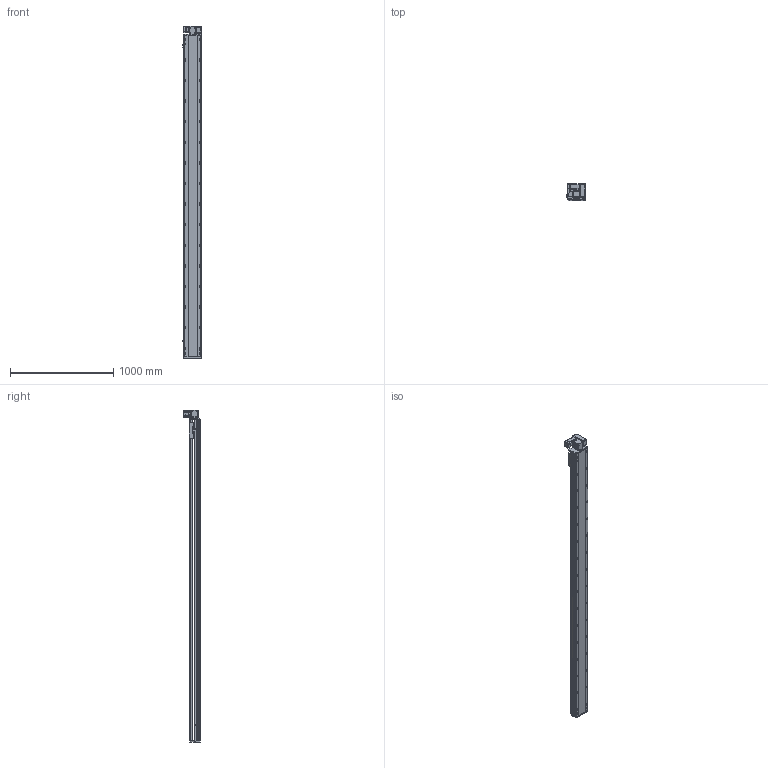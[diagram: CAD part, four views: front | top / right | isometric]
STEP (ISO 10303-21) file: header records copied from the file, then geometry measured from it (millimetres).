
FILE_DESCRIPTION (( 'STEP AP214' ), '1' );
FILE_NAME ('RTB17S-XX-2850-RW-M40-C4.STEP', '2025-12-11T09:16:06', ( '' ), ( '' ), 'SwSTEP 2.0', 'SolidWorks 2018', '' );
FILE_SCHEMA (( 'AUTOMOTIVE_DESIGN' ));
Length unit declared in the file: millimetre
Products named in the file (14): RTB14-L-018P^RTB17S-RW-々湍釱蚾饜-400W_RTB17S-XX-XX-RW-M40-C4; RTB17S-RW-々湍釱蚾饜-400W^RTB17S-XX-XX-RW-M40-C4; RTB14-L-008-M20--萇儂啣^RTB17S-RW-々湍釱蚾饜-400W_RTB17S-XX-XX-RW-M40-C4; RTH13-BL-012覜茼え俋离^RTB17S-XX-XX-RW-M40-C4; RTB17-R-011菁釱^RTB17S-XX-XX-RW-M40-C4; 400W侜督萇儂^RTB17S-XX-XX-RW-M40-C4; RTB17S-L-007奻裔^RTB17S-XX-XX-RW-M40-C4; RTB17S-L-004佪裝蹟譫蟀諉釱^RTB17S-XX-XX-RW-M40-C4; RTB17S-L-001耜醱啣^RTB17S-XX-XX-RW-M40-C4; OMRON EE-SX672 传感器^RTB17S-XX-XX-RW-M40-C4; RTB14-L-017P^RTB17S-RW-々湍釱蚾饜-400W_RTB17S-XX-XX-RW-M40-C4; RTB14-L-005P--轴承塑胶压盖^RTB17S-RW-皮带座装配-400W_RTB17S-XX-XX-RW-M40-C4; RTB17S-XX-2850-RW-M40-C4; RMP17S-L-014-T20--々湍釱^RTB17S-RW-々湍釱蚾饜-400W_RTB17S-XX-XX-RW-M40-C4
Assembly tree (16 placements, depth 3):
  RTB17S-XX-2850-RW-M40-C4
    RTB17-R-011菁釱^RTB17S-XX-XX-RW-M40-C4
    RTB17S-L-007奻裔^RTB17S-XX-XX-RW-M40-C4
    OMRON EE-SX672 传感器^RTB17S-XX-XX-RW-M40-C4  x3
    RTB17S-L-001耜醱啣^RTB17S-XX-XX-RW-M40-C4
    400W侜督萇儂^RTB17S-XX-XX-RW-M40-C4
    RTB17S-L-004佪裝蹟譫蟀諉釱^RTB17S-XX-XX-RW-M40-C4
    RTH13-BL-012覜茼え俋离^RTB17S-XX-XX-RW-M40-C4
    RTB17S-RW-々湍釱蚾饜-400W^RTB17S-XX-XX-RW-M40-C4
      RMP17S-L-014-T20--々湍釱^RTB17S-RW-々湍釱蚾饜-400W_RTB17S-XX-XX-RW-M40-C4
      RTB14-L-005P--轴承塑胶压盖^RTB17S-RW-皮带座装配-400W_RTB17S-XX-XX-RW-M40-C4
      RTB14-L-008-M20--萇儂啣^RTB17S-RW-々湍釱蚾饜-400W_RTB17S-XX-XX-RW-M40-C4
      RTB14-L-017P^RTB17S-RW-々湍釱蚾饜-400W_RTB17S-XX-XX-RW-M40-C4  x2
      RTB14-L-018P^RTB17S-RW-々湍釱蚾饜-400W_RTB17S-XX-XX-RW-M40-C4
Bounding box: 183.5 x 160.5 x 3222.5 mm (x, y, z)
Volume: 27455697.1 mm3; surface area: 3145052.5 mm2
Topology: 15 solids, 15 shells, 2365 faces, 6627 edges, 4329 vertices
Faces by surface type: plane 1088, cylinder 829, bspline 301, cone 139, torus 8
Entity records: 70313 total; most frequent: CARTESIAN_POINT 20032, ORIENTED_EDGE 10098, DIRECTION 9296, EDGE_CURVE 5049, VERTEX_POINT 3317, AXIS2_PLACEMENT_3D 3247, LINE 2802, VECTOR 2802
